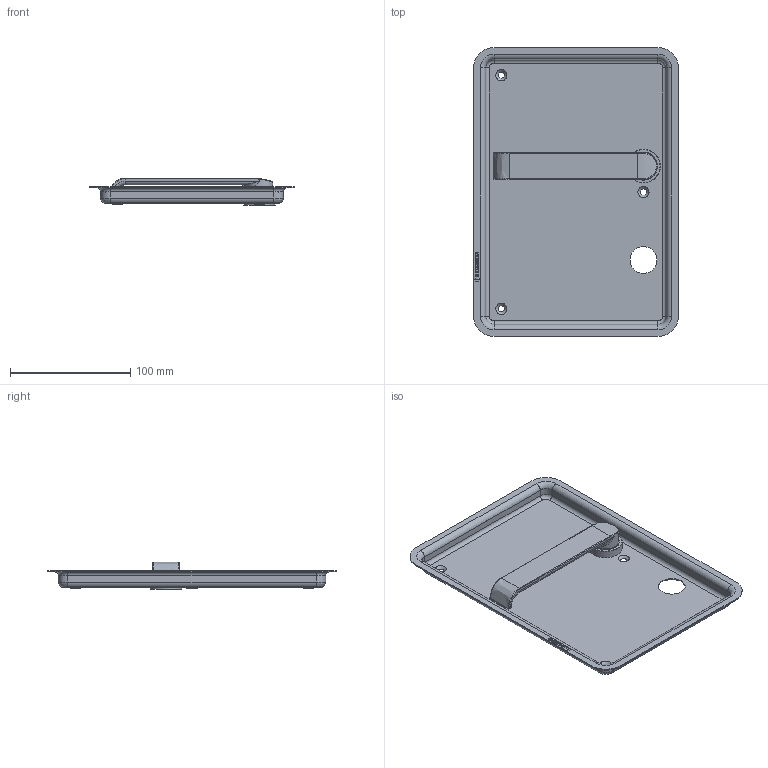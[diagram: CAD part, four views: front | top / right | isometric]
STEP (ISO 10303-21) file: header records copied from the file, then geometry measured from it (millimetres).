
FILE_DESCRIPTION(/* description */ (''),/* implementation_level */ '2;1');
FILE_NAME(/* name */ 'C:\ADSK_DMS_WS\Designs\Vorschläge\Loc Schalen\Muschel Serie 3\S3.13.D1Links\Heusser-Muschel S3.13.D1.278L.stp',/* time_stamp */ '2020-11-21T09:56:50+01:00',/* author */ ('gm'),/* organization */ (''),/* preprocessor_version */ 'ST-DEVELOPER v16.5',/* originating_system */ 'Autodesk Inventor 2017',/* authorisation */ '');
FILE_SCHEMA (('AUTOMOTIVE_DESIGN { 1 0 10303 214 3 1 1 }'));
Length unit declared in the file: millimetre
Products named in the file (1): S3.13.D1.L
Bounding box: 170 x 240 x 23 mm (x, y, z)
Volume: 67300.2 mm3; surface area: 105701 mm2
Topology: 1 solids, 2 shells, 305 faces, 761 edges, 482 vertices
Faces by surface type: plane 130, bspline 82, cylinder 62, cone 16, torus 15
Full cylindrical faces by diameter (mm): 1.7 x2, 6 x1, 16 x3, 18 x1, 19 x1, 19.1 x1, 22 x1, 22.3 x1, 23 x1, 23.2 x1, 24 x1, 25 x1, 26 x1, 28 x1
Entity records: 10186 total; most frequent: CARTESIAN_POINT 3022, ORIENTED_EDGE 1436, DIRECTION 1262, EDGE_CURVE 718, VERTEX_POINT 476, AXIS2_PLACEMENT_3D 434, LINE 394, VECTOR 394
